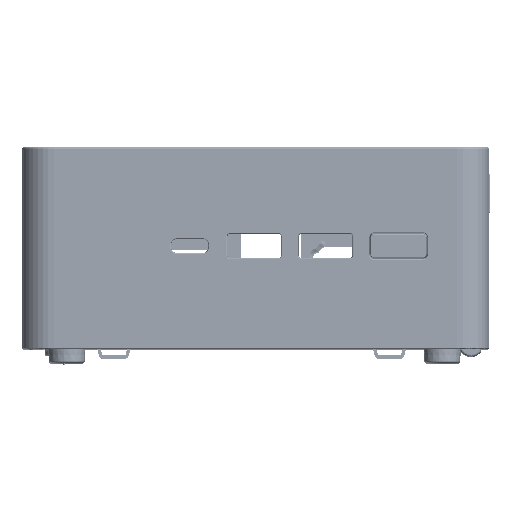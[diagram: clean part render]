
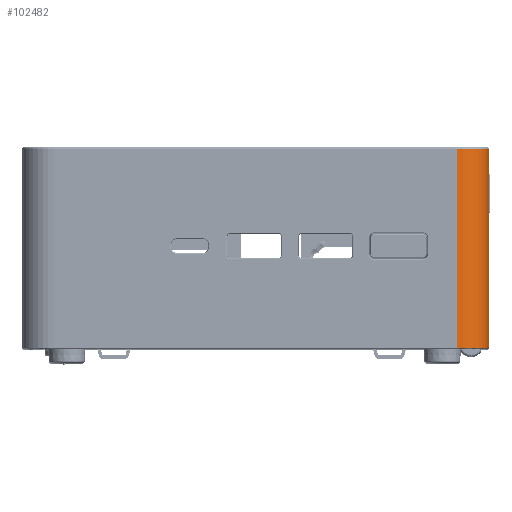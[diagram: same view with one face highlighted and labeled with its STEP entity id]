
A CAD part, top view. The second image highlights one B-rep face of the part: STEP entity #102482.
In plain terms, the highlighted cylindrical face has radius 8 mm (diameter 16 mm), a partial arc.
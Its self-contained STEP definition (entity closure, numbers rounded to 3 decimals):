
#10594=DIRECTION('',(0.,-1.,0.));
#10595=VECTOR('',#10594,49.768);
#10596=CARTESIAN_POINT('',(58.5,47.6,48.));
#10597=LINE('',#10596,#10595);
#15092=CARTESIAN_POINT('',(50.5,-2.168,48.));
#15093=DIRECTION('',(0.,1.,0.));
#15094=DIRECTION('',(0.,0.,1.));
#15095=AXIS2_PLACEMENT_3D('',#15092,#15093,#15094);
#15097=DIRECTION('',(0.,-1.,0.));
#15098=VECTOR('',#15097,49.768);
#15099=CARTESIAN_POINT('',(50.5,47.6,56.));
#15100=LINE('',#15099,#15098);
#15101=CARTESIAN_POINT('',(50.5,47.6,48.));
#15102=DIRECTION('',(0.,1.,0.));
#15103=DIRECTION('',(0.,0.,1.));
#15104=AXIS2_PLACEMENT_3D('',#15101,#15102,#15103);
#89621=CARTESIAN_POINT('',(58.5,47.6,48.));
#89622=VERTEX_POINT('',#89621);
#89625=CARTESIAN_POINT('',(50.5,47.6,56.));
#89626=VERTEX_POINT('',#89625);
#92933=CARTESIAN_POINT('',(50.5,-2.168,56.));
#92934=VERTEX_POINT('',#92933);
#92937=CARTESIAN_POINT('',(58.5,-2.168,48.));
#92938=VERTEX_POINT('',#92937);
#102469=CARTESIAN_POINT('',(50.5,48.1,48.));
#102470=DIRECTION('',(0.,1.,0.));
#102471=DIRECTION('',(1.,0.,0.));
#102472=AXIS2_PLACEMENT_3D('',#102469,#102470,#102471);
#102473=CYLINDRICAL_SURFACE('',#102472,8.);
#102475=ORIENTED_EDGE('',*,*,#102474,.F.);
#102477=ORIENTED_EDGE('',*,*,#102476,.F.);
#102478=ORIENTED_EDGE('',*,*,#102437,.T.);
#102479=ORIENTED_EDGE('',*,*,#99411,.T.);
#102480=EDGE_LOOP('',(#102475,#102477,#102478,#102479));
#102481=FACE_OUTER_BOUND('',#102480,.F.);
#15096=CIRCLE('',#15095,8.);
#15105=CIRCLE('',#15104,8.);
#99411=EDGE_CURVE('',#89622,#92938,#10597,.T.);
#102437=EDGE_CURVE('',#89626,#89622,#15105,.T.);
#102474=EDGE_CURVE('',#92934,#92938,#15096,.T.);
#102476=EDGE_CURVE('',#89626,#92934,#15100,.T.);
#102482=ADVANCED_FACE('',(#102481),#102473,.T.);
